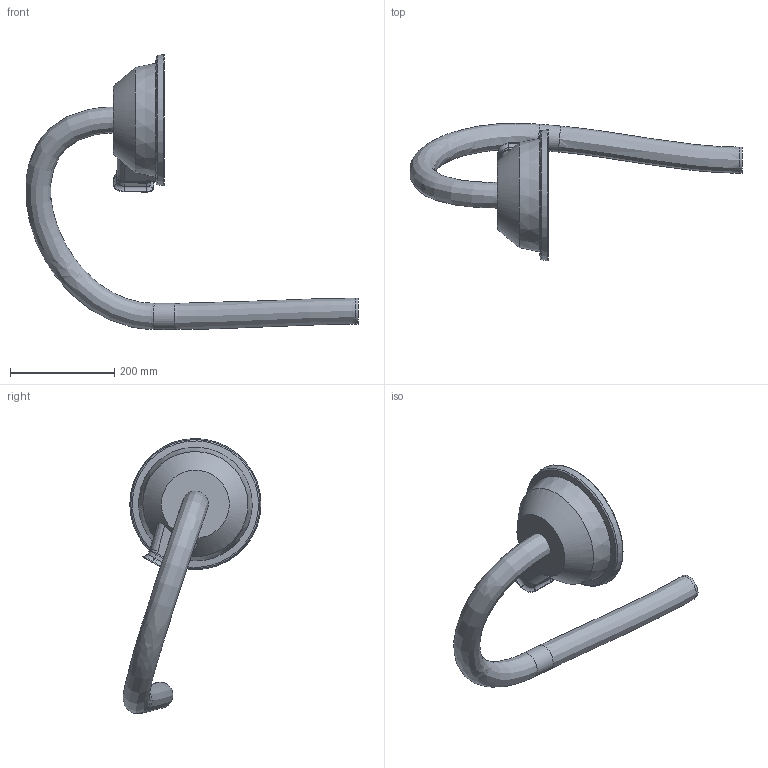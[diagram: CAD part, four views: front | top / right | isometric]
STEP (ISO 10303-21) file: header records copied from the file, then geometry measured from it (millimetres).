
FILE_DESCRIPTION (( 'STEP AP214' ), '1' );
FILE_NAME ('IRB6740-LID-SW_230kg-300_OC_00_LINK03b_CABLE.step', '2026-05-07T13:20:39', ( '' ), ( '' ), 'SwSTEP 2.0', 'SolidWorks 2024', '' );
FILE_SCHEMA (( 'AUTOMOTIVE_DESIGN' ));
Length unit declared in the file: millimetre
Products named in the file (1): IRB6740-LID-SW_230kg-300_OC_00_LINK03b_CABLE
Bounding box: 635.76 x 264.17 x 526.62 mm (x, y, z)
Volume: 5167940.4 mm3; surface area: 306688.7 mm2
Topology: 1 solids, 1 shells, 92 faces, 234 edges, 145 vertices
Faces by surface type: bspline 33, cylinder 20, plane 18, torus 13, cone 8
Full cylindrical faces by diameter (mm): 50 x2
Entity records: 6663 total; most frequent: CARTESIAN_POINT 3830, ORIENTED_EDGE 438, DIRECTION 281, EDGE_CURVE 219, VERTEX_POINT 140, AXIS2_PLACEMENT_3D 116, EDGE_LOOP 101, FACE_OUTER_BOUND 98
